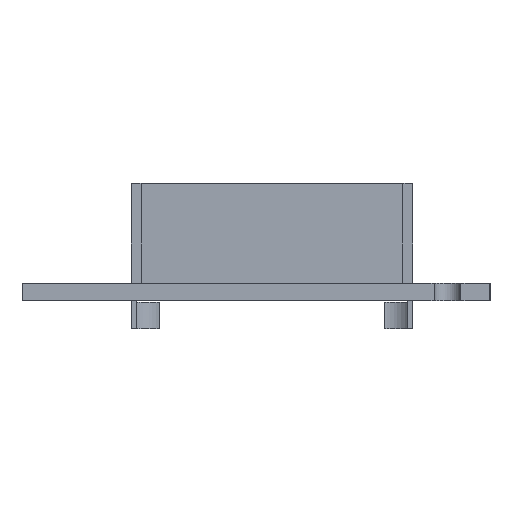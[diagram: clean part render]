
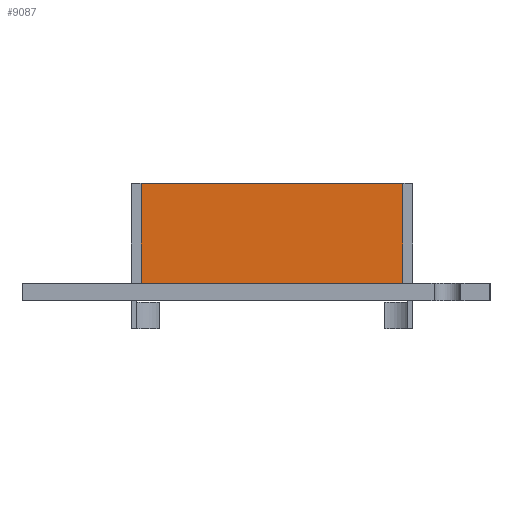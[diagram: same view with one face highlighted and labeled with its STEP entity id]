
A CAD part, left-side view. The second image highlights one B-rep face of the part: STEP entity #9087.
In plain terms, the highlighted planar face has unit normal (-1, 0, 0).
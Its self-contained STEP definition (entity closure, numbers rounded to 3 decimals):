
#126 = CARTESIAN_POINT ( 'NONE',  ( -35.75, -13.81, 9.8 ) ) ;
#188 = DIRECTION ( 'NONE',  ( 0., 0., -1. ) ) ;
#1769 = CARTESIAN_POINT ( 'NONE',  ( -35.75, 10.81, 10.2 ) ) ;
#1841 = CARTESIAN_POINT ( 'NONE',  ( -35.75, -13.81, 0.8 ) ) ;
#1880 = ORIENTED_EDGE ( 'NONE', *, *, #4249, .T. ) ;
#2193 = ORIENTED_EDGE ( 'NONE', *, *, #9742, .T. ) ;
#3090 = VERTEX_POINT ( 'NONE', #1841 ) ;
#3446 = LINE ( 'NONE', #7865, #11111 ) ;
#3579 = FACE_OUTER_BOUND ( 'NONE', #12339, .T. ) ;
#4249 = EDGE_CURVE ( 'NONE', #4870, #3090, #10132, .T. ) ;
#4727 = LINE ( 'NONE', #126, #9967 ) ;
#4870 = VERTEX_POINT ( 'NONE', #6454 ) ;
#5302 = LINE ( 'NONE', #1769, #8122 ) ;
#5353 = PLANE ( 'NONE',  #10400 ) ;
#6118 = EDGE_CURVE ( 'NONE', #8059, #6417, #5302, .T. ) ;
#6365 = DIRECTION ( 'NONE',  ( 0., 0., -1. ) ) ;
#6417 = VERTEX_POINT ( 'NONE', #12141 ) ;
#6426 = DIRECTION ( 'NONE',  ( 1., 0., 0. ) ) ;
#6454 = CARTESIAN_POINT ( 'NONE',  ( -35.75, 10.81, 0.8 ) ) ;
#6792 = DIRECTION ( 'NONE',  ( 0., 0., -1. ) ) ;
#7060 = CARTESIAN_POINT ( 'NONE',  ( -35.75, 10.81, 10.2 ) ) ;
#7704 = VECTOR ( 'NONE', #9247, 1000. ) ;
#7817 = ORIENTED_EDGE ( 'NONE', *, *, #6118, .F. ) ;
#7865 = CARTESIAN_POINT ( 'NONE',  ( -35.75, 10.81, 9.8 ) ) ;
#8059 = VERTEX_POINT ( 'NONE', #7060 ) ;
#8122 = VECTOR ( 'NONE', #12152, 1000. ) ;
#8216 = CARTESIAN_POINT ( 'NONE',  ( -35.75, -13.81, 0.8 ) ) ;
#9087 = ADVANCED_FACE ( 'NONE', ( #3579 ), #5353, .F. ) ;
#9247 = DIRECTION ( 'NONE',  ( 0., -1., 0. ) ) ;
#9675 = EDGE_CURVE ( 'NONE', #6417, #3090, #4727, .T. ) ;
#9742 = EDGE_CURVE ( 'NONE', #8059, #4870, #3446, .T. ) ;
#9967 = VECTOR ( 'NONE', #6365, 1000. ) ;
#10132 = LINE ( 'NONE', #8216, #7704 ) ;
#10400 = AXIS2_PLACEMENT_3D ( 'NONE', #12659, #6426, #188 ) ;
#11111 = VECTOR ( 'NONE', #6792, 1000. ) ;
#12141 = CARTESIAN_POINT ( 'NONE',  ( -35.75, -13.81, 10.2 ) ) ;
#12152 = DIRECTION ( 'NONE',  ( 0., -1., 0. ) ) ;
#12339 = EDGE_LOOP ( 'NONE', ( #1880, #12828, #7817, #2193 ) ) ;
#12659 = CARTESIAN_POINT ( 'NONE',  ( -35.75, -13.81, 9.8 ) ) ;
#12828 = ORIENTED_EDGE ( 'NONE', *, *, #9675, .F. ) ;
